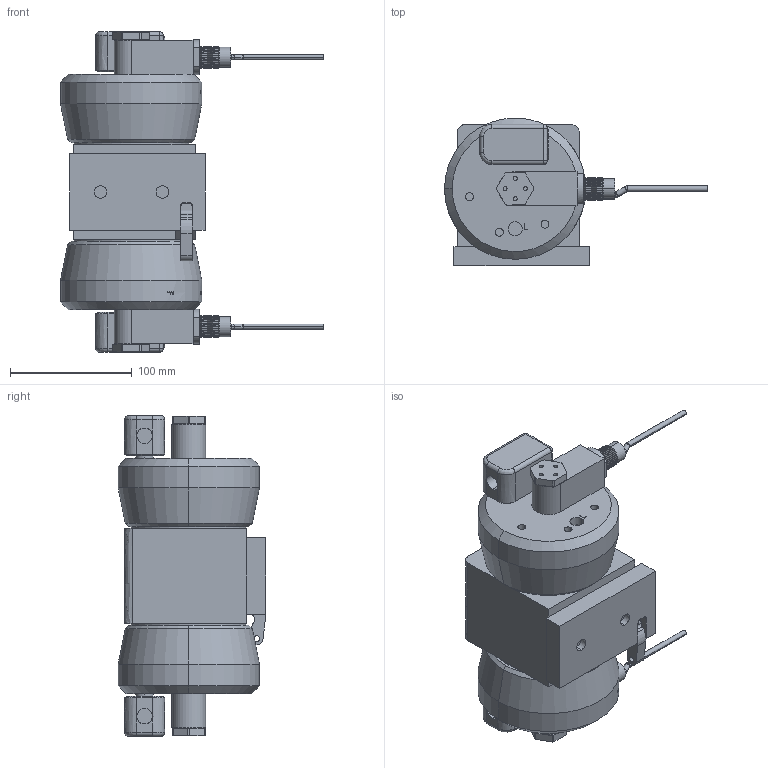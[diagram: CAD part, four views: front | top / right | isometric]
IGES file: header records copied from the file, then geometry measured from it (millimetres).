
Start section: SolidWorks IGES file using analytic representation for surfaces
Global section: file name: \\server\Users\Karen.Bodily\My Documents\PXH030_solid model.IGS; native system: SolidWorks 2012; preprocessor: SolidWorks 2012; author: karen.bodily; date: 130724.123703; units: inch
Bounding box: 216.03 x 121.36 x 263.49 mm (x, y, z)
Volume: 2212663.1 mm3; surface area: 156796.4 mm2
Topology: 1 solids, 1 shells, 1337 faces, 3323 edges, 2130 vertices
Faces by surface type: plane 802, revolution 422, bspline 113
